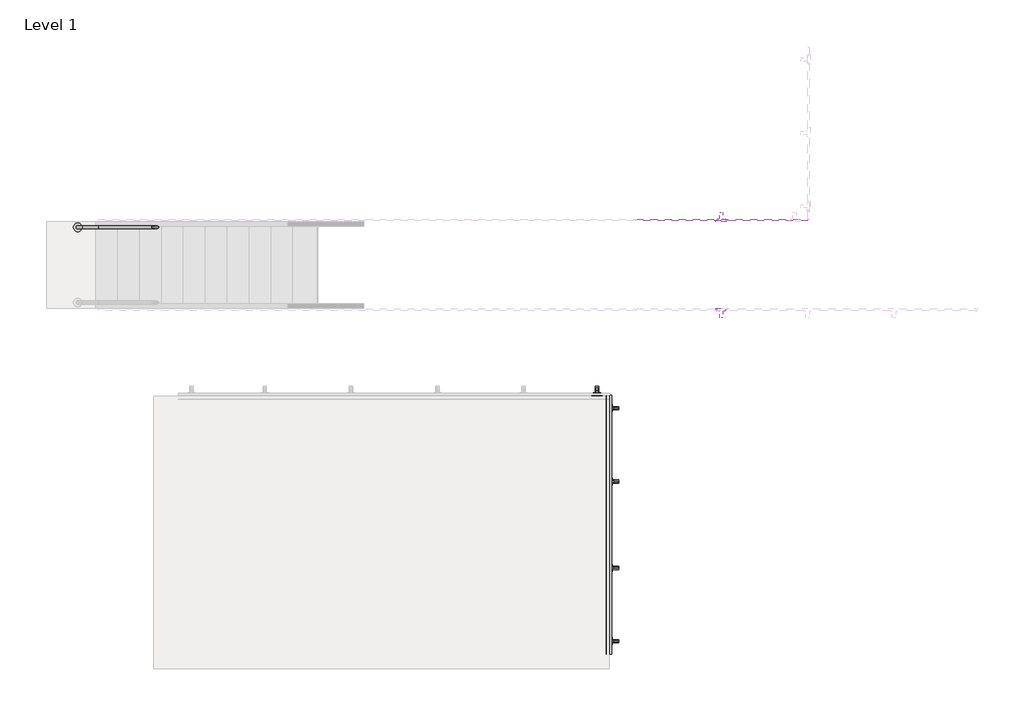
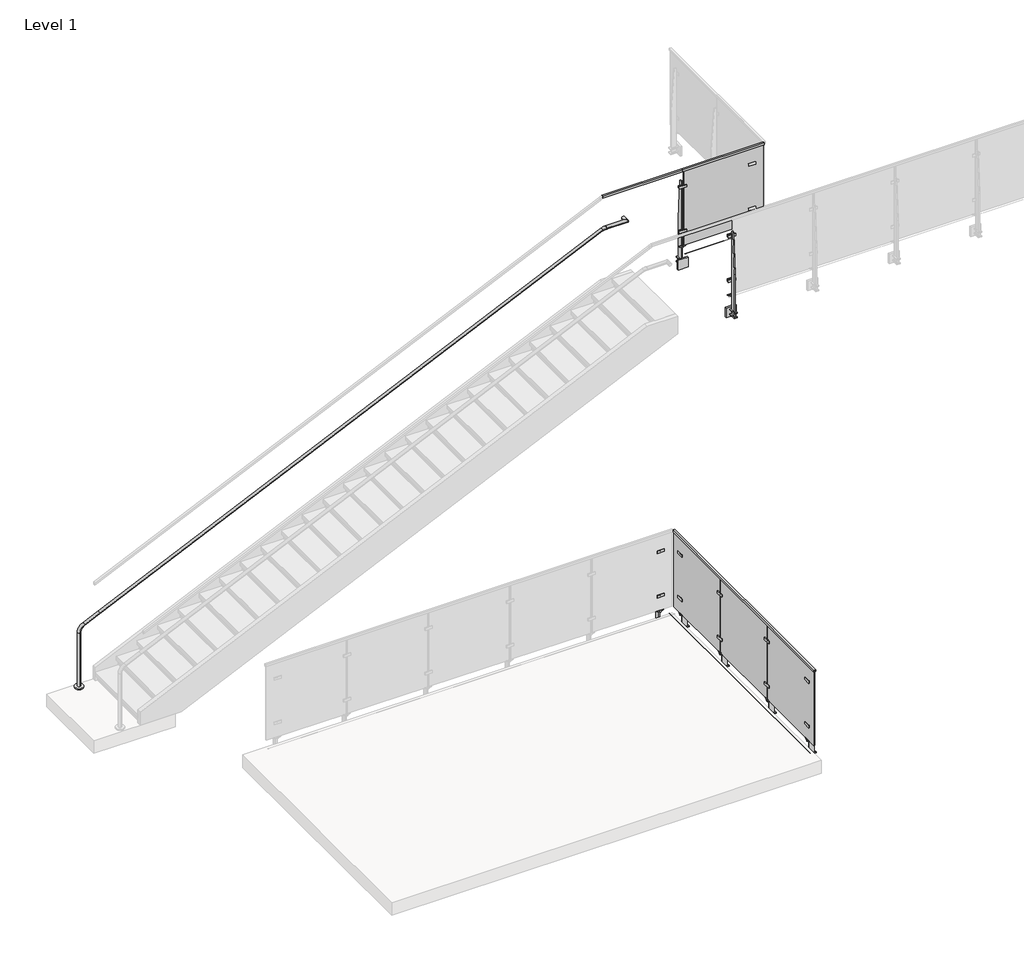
# One storey, part 18 of 37: 6 proxies, 2 railings.
"""IFC4 building model written with IfcOpenShell, lengths in millimetres."""

from ifc_helpers import new_model, si_unit, point, frame, frame_2d, origin, place, context, project, spatial, polyline, circle_curve, ellipse_curve, trimmed, segment, composite_curve, outline, extrude, faceted_brep, transform, mapped, element, save
from ifc_brep_helpers import plane_surface, cylinder_surface, revolved_surface, advanced_brep
from components import baluster_end_post_viva_solo_top_mount_260e03f1, baluster_end_post_viva_solo_top_mount_5a94812b, baluster_end_post_viva_solo_top_mount_2ca36c6b

model = new_model("IFC4")

# Units and contexts
model_context = context("Model", 3, world=origin())
ifc_project = project(units=[si_unit("LENGTHUNIT", "METRE", prefix="MILLI")], contexts=[model_context])

# Site, building, storey
site = spatial("IfcSite", under=ifc_project)
building = spatial("IfcBuilding", under=site)
storey = spatial("IfcBuildingStorey", under=building, Name="Level 1", Elevation=0.0)

# Proxies
placement = place(None, origin())
baluster_end_post_viva_solo_top_mount_shape = baluster_end_post_viva_solo_top_mount_260e03f1(model_context)
element("IfcBuildingElementProxy", 1, Name="Baluster-End-Post-VIVA-SOLO-Top Mount : ANCHORED TO CONCRETE_FASCIA B1 MOUNT FOLD_STRAIGHT", ObjectType="Baluster-End-Post-VIVA-SOLO-Top Mount : ANCHORED TO CONCRETE_FASCIA B1 MOUNT FOLD_STRAIGHT", at=placement, inside=storey, context=model_context, shape_type="MappedRepresentation", body=[
    mapped(baluster_end_post_viva_solo_top_mount_shape, transform((-7749.8616451, 21733.5939615, -0.508), x_axis=(-1.0, 0.0, 0.0), y_axis=(0.0, -1.0, 0.0), z_axis=(0.0, 0.0, 1.0))),
])
element("IfcBuildingElementProxy", 2, Name="Baluster-End-Post-VIVA-SOLO-Top Mount : ANCHORED TO CONCRETE_FASCIA B1 MOUNT FOLD_STRAIGHT", ObjectType="Baluster-End-Post-VIVA-SOLO-Top Mount : ANCHORED TO CONCRETE_FASCIA B1 MOUNT FOLD_STRAIGHT", at=placement, inside=storey, context=model_context, shape_type="MappedRepresentation", body=[
    mapped(baluster_end_post_viva_solo_top_mount_shape, transform((-7795.6451451, 18731.3774615, -0.508), x_axis=(0.0, 1.0, 0.0), y_axis=(-1.0, 0.0, 0.0), z_axis=(0.0, 0.0, 1.0))),
])
baluster_end_post_viva_solo_top_mount_2_shape = baluster_end_post_viva_solo_top_mount_5a94812b(model_context)
element("IfcBuildingElementProxy", 3, Name="Baluster-End-Post-VIVA-SOLO-Top Mount : ANCHORED TO CONCRETE_FASCIA B1 MOUNT FOLD_STRAIGHT", ObjectType="Baluster-End-Post-VIVA-SOLO-Top Mount : ANCHORED TO CONCRETE_FASCIA B1 MOUNT FOLD_STRAIGHT", at=placement, inside=storey, context=model_context, shape_type="MappedRepresentation", body=[
    mapped(baluster_end_post_viva_solo_top_mount_2_shape, transform((-7795.6451451, 21779.3774615, -0.508), x_axis=(0.0, 1.0, 0.0), y_axis=(-1.0, 0.0, 0.0), z_axis=(0.0, 0.0, 1.0))),
])
baluster_end_post_viva_solo_top_mount_3_shape = baluster_end_post_viva_solo_top_mount_2ca36c6b(model_context)
element("IfcBuildingElementProxy", 4, Name="Baluster-End-Post-VIVA-SOLO-Top Mount : ANCHORED TO CONCRETE_FASCIA B1 MOUNT FOLD_STRAIGHT", ObjectType="Baluster-End-Post-VIVA-SOLO-Top Mount : ANCHORED TO CONCRETE_FASCIA B1 MOUNT FOLD_STRAIGHT", at=placement, inside=storey, context=model_context, shape_type="MappedRepresentation", body=[
    mapped(baluster_end_post_viva_solo_top_mount_3_shape, transform((-6439.864819, 22841.5801942, 3047.492), x_axis=(1.0, 0.0, 0.0), y_axis=(0.0, 1.0, 0.0), z_axis=(0.0, 0.0, 1.0))),
])
element("IfcBuildingElementProxy", 5, Name="Baluster-End-Post-VIVA-SOLO-Top Mount : ANCHORED TO CONCRETE_FASCIA B1 MOUNT FOLD_STRAIGHT", ObjectType="Baluster-End-Post-VIVA-SOLO-Top Mount : ANCHORED TO CONCRETE_FASCIA B1 MOUNT FOLD_STRAIGHT", at=placement, inside=storey, context=model_context, shape_type="MappedRepresentation", body=[
    mapped(baluster_end_post_viva_solo_top_mount_3_shape, transform((-6439.864819, 23785.0994132, 3047.492), x_axis=(-1.0, 0.0, 0.0), y_axis=(0.0, -1.0, 0.0), z_axis=(0.0, 0.0, 1.0))),
])
element("IfcBuildingElementProxy", 6, Name="Metal-VIVA-Circular-1 1/2\"-Fascia_Left", ObjectType="Metal-VIVA-Circular-1 1/2\"-Fascia_Left", at=placement, inside=storey, context=model_context, shape_type="SolidModel", body=[
    advanced_brep(
    [(-7445.0811907, 23737.1841942, 3761.5343758), (-7445.0811907, 23775.2841942, 3761.5343758), (-7172.0311907, 23737.1841942, 3761.5343758), (-7210.1311907, 23775.2841942, 3761.5343758), (-7172.0311907, 23819.7341942, 3761.5343758), (-7210.1311907, 23819.7341942, 3761.5343758)],
    [
        (0, 1, circle_curve(frame((-7445.0811907, 23756.2341942, 3761.5343758), z_axis=(-1.0, 0.0, 0.0), x_axis=(0.0, 1.0, 0.0)), 19.05)),
        (1, 0, circle_curve(frame((-7445.0811907, 23756.2341942, 3761.5343758), z_axis=(-1.0, 0.0, 0.0), x_axis=(0.0, 1.0, 0.0)), 19.05)),
        (0, 2),
        (2, 3, ellipse_curve(frame((-7191.0811907, 23756.2341942, 3761.5343758), z_axis=(-0.7071067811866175, -0.7071067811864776, 0.0), x_axis=(-0.7071067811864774, 0.7071067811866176, 0.0)), 26.9407684, 19.05)),
        (3, 1),
        (3, 2, ellipse_curve(frame((-7191.0811907, 23756.2341942, 3761.5343758), z_axis=(-0.7071067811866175, -0.7071067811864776, 0.0), x_axis=(-0.7071067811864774, 0.7071067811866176, 0.0)), 26.9407684, 19.05)),
        (4, 5, circle_curve(frame((-7191.0811907, 23819.7341942, 3761.5343758), z_axis=(0.0, 1.0, 0.0), x_axis=(-1.0, 0.0, 0.0)), 19.05)),
        (5, 4, circle_curve(frame((-7191.0811907, 23819.7341942, 3761.5343758), z_axis=(0.0, 1.0, 0.0), x_axis=(-1.0, 0.0, 0.0)), 19.05)),
        (2, 4),
        (5, 3),
    ],
    [
        plane_surface(frame((-7445.0811907, 23756.2341942, 3761.5343758), z_axis=(-1.0, 0.0, 0.0), x_axis=(0.0, 0.0, 1.0))),
        cylinder_surface(frame((-7445.0811907, 23756.2341942, 3761.5343758), z_axis=(-1.0, 0.0, 0.0), x_axis=(0.0, 1.0, 0.0)), 19.05),
        plane_surface(frame((-7191.0811907, 23819.7341942, 3761.5343758), z_axis=(0.0, 1.0, 0.0), x_axis=(0.0, 0.0, 1.0))),
        cylinder_surface(frame((-7191.0811907, 23756.2341942, 3761.5343758), z_axis=(0.0, -1.0, 0.0), x_axis=(-1.0, 0.0, 0.0)), 19.05),
    ],
    [
        (0, [[1, 2]]),
        (1, [[-1, 3, 4, 5]]),
        (1, [[-2, -5, 6, -3]]),
        (2, [[7, 8]]),
        (3, [[-4, 9, -8, 10]]),
        (3, [[-6, -10, -7, -9]]),
    ],
),
    extrude(outline(composite_curve([segment(trimmed(circle_curve(frame_2d((-14014.9960127, 23756.2341942)), 50.8), [point((-14014.9960127, 23807.0341942))], [point((-14014.9960127, 23705.4341942))], False, "CARTESIAN"), True, "CONTINUOUS"), segment(trimmed(circle_curve(frame_2d((-14014.9960127, 23756.2341942)), 50.8), [point((-14014.9960127, 23705.4341942))], [point((-14014.9960127, 23807.0341942))], False, "CARTESIAN"), True, "CONTINUOUS")], self_intersect=False)), frame((0.0, 0.0, -1.27), z_axis=(0.0, 0.0, 1.0), x_axis=(1.0, 0.0, 0.0)), (0.0, 0.0, 1.0), 19.05),
    advanced_brep(
    [(-14014.9960127, 23737.1841942, 17.78), (-14014.9960127, 23775.2841942, 17.78), (-14014.9960127, 23737.1841942, 721.3199396), (-14014.9960127, 23775.2841942, 721.3199396), (-13955.4515938, 23775.2841942, 813.8071717), (-13955.4515938, 23737.1841942, 813.8071717), (-13768.3505912, 23737.1841942, 898.8853085), (-13768.3505912, 23775.2841942, 898.8853085), (-7492.9486795, 23737.1841942, 3752.4216078), (-7492.9486795, 23775.2841942, 3752.4216078), (-7450.8930984, 23775.2841942, 3761.5343758), (-7450.8930984, 23737.1841942, 3761.5343758), (-7445.0811907, 23737.1841942, 3761.5343758), (-7445.0811907, 23775.2841942, 3761.5343758)],
    [
        (0, 1, circle_curve(frame((-14014.9960127, 23756.2341942, 17.78), z_axis=(0.0, 0.0, -1.0), x_axis=(0.0, 1.0, 0.0)), 19.05)),
        (1, 0, circle_curve(frame((-14014.9960127, 23756.2341942, 17.78), z_axis=(0.0, 0.0, -1.0), x_axis=(0.0, 1.0, 0.0)), 19.05)),
        (0, 2),
        (2, 3, circle_curve(frame((-14014.9960127, 23756.2341942, 721.3199396), z_axis=(0.0, 0.0, -1.0), x_axis=(0.0, 1.0, 0.0)), 19.05)),
        (3, 1),
        (3, 2, circle_curve(frame((-14014.9960127, 23756.2341942, 721.3199396), z_axis=(0.0, 0.0, -1.0), x_axis=(0.0, 1.0, 0.0)), 19.05)),
        (4, 3, circle_curve(frame((-13913.3960127, 23775.2841942, 721.3199396), z_axis=(0.0, -1.0, 0.0), x_axis=(-1.0, 0.0, 0.0)), 101.6)),
        (2, 5, circle_curve(frame((-13913.3960127, 23737.1841942, 721.3199396), z_axis=(0.0, 1.0, 0.0), x_axis=(-1.0, 0.0, 0.0)), 101.6)),
        (5, 4, circle_curve(frame((-13955.4515938, 23756.2341942, 813.8071717), z_axis=(-0.910307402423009, 0.0, -0.41393288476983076), x_axis=(0.0, 1.0, 0.0)), 19.05)),
        (4, 5, circle_curve(frame((-13955.4515938, 23756.2341942, 813.8071717), z_axis=(-0.9103074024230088, 0.0, -0.41393288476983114), x_axis=(0.0, 1.0, 0.0)), 19.05)),
        (5, 6),
        (6, 7, circle_curve(frame((-13768.3505912, 23756.2341942, 898.8853085), z_axis=(-0.9103074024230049, 0.0, -0.4139328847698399), x_axis=(0.0, 1.0, 0.0)), 19.05)),
        (7, 4),
        (7, 6, circle_curve(frame((-13768.3505912, 23756.2341942, 898.8853085), z_axis=(-0.9103074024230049, 0.0, -0.4139328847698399), x_axis=(0.0, 1.0, 0.0)), 19.05)),
        (6, 8),
        (8, 9, circle_curve(frame((-7492.9486795, 23756.2341942, 3752.4216078), z_axis=(-0.9103074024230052, 0.0, -0.4139328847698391), x_axis=(0.0, 1.0, 0.0)), 19.05)),
        (9, 7),
        (9, 8, circle_curve(frame((-7492.9486795, 23756.2341942, 3752.4216078), z_axis=(-0.9103074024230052, 0.0, -0.4139328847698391), x_axis=(0.0, 1.0, 0.0)), 19.05)),
        (10, 9, circle_curve(frame((-7450.8930984, 23775.2841942, 3659.9343758), z_axis=(0.0, -1.0, 0.0), x_axis=(-0.4139328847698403, 0.0, 0.9103074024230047)), 101.6)),
        (8, 11, circle_curve(frame((-7450.8930984, 23737.1841942, 3659.9343758), z_axis=(0.0, 1.0, 0.0), x_axis=(-0.4139328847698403, 0.0, 0.9103074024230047)), 101.6)),
        (11, 10, circle_curve(frame((-7450.8930984, 23756.2341942, 3761.5343758), z_axis=(-1.0, 0.0, 0.0), x_axis=(0.0, 1.0, 0.0)), 19.05)),
        (10, 11, circle_curve(frame((-7450.8930984, 23756.2341942, 3761.5343758), z_axis=(-1.0, 0.0, 0.0), x_axis=(0.0, 1.0, 0.0)), 19.05)),
        (12, 13, circle_curve(frame((-7445.0811907, 23756.2341942, 3761.5343758), z_axis=(1.0, 0.0, 0.0), x_axis=(0.0, 1.0, 0.0)), 19.05)),
        (13, 12, circle_curve(frame((-7445.0811907, 23756.2341942, 3761.5343758), z_axis=(1.0, 0.0, 0.0), x_axis=(0.0, 1.0, 0.0)), 19.05)),
        (11, 12),
        (13, 10),
    ],
    [
        plane_surface(frame((-14034.0460127, 23718.1341942, 17.78), z_axis=(0.0, 0.0, -1.0), x_axis=(1.0, 0.0, 0.0))),
        cylinder_surface(frame((-14014.9960127, 23756.2341942, 17.78), z_axis=(0.0, 0.0, -1.0), x_axis=(0.0, 1.0, 0.0)), 19.05),
        revolved_surface(trimmed(ellipse_curve(frame((-14014.9960127, 23756.2341942, 721.3199396), z_axis=(0.0, 0.0, -1.0), x_axis=(0.0, 1.0, 0.0)), 19.05, 19.05), [point((-14014.9960127, 23737.1841942, 721.3199396))], [point((-14014.9960127, 23775.2841942, 721.3199396))], True, "CARTESIAN"), (-13913.3960127, 23756.2341942, 721.3199396), (0.0, 1.0, 0.0)),
        revolved_surface(trimmed(ellipse_curve(frame((-14014.9960127, 23756.2341942, 721.3199396), z_axis=(0.0, 0.0, -1.0), x_axis=(0.0, 1.0, 0.0)), 19.05, 19.05), [point((-14014.9960127, 23775.2841942, 721.3199396))], [point((-14014.9960127, 23737.1841942, 721.3199396))], True, "CARTESIAN"), (-13913.3960127, 23756.2341942, 721.3199396), (0.0, 1.0, 0.0)),
        cylinder_surface(frame((-13955.4515938, 23756.2341942, 813.8071717), z_axis=(-0.9103074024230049, 0.0, -0.4139328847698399), x_axis=(0.0, 1.0, 0.0)), 19.05),
        cylinder_surface(frame((-13768.3505912, 23756.2341942, 898.8853085), z_axis=(-0.9103074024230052, 0.0, -0.4139328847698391), x_axis=(0.0, 1.0, 0.0)), 19.05),
        revolved_surface(trimmed(ellipse_curve(frame((-7492.9486795, 23756.2341942, 3752.4216078), z_axis=(-0.9103074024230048, 0.0, -0.41393288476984), x_axis=(0.0, 1.0, 0.0)), 19.05, 19.05), [point((-7492.9486795, 23737.1841942, 3752.4216078))], [point((-7492.9486795, 23775.2841942, 3752.4216078))], True, "CARTESIAN"), (-7450.8930984, 23756.2341942, 3659.9343758), (0.0, 1.0, 0.0)),
        revolved_surface(trimmed(ellipse_curve(frame((-7492.9486795, 23756.2341942, 3752.4216078), z_axis=(-0.9103074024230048, 0.0, -0.41393288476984), x_axis=(0.0, 1.0, 0.0)), 19.05, 19.05), [point((-7492.9486795, 23775.2841942, 3752.4216078))], [point((-7492.9486795, 23737.1841942, 3752.4216078))], True, "CARTESIAN"), (-7450.8930984, 23756.2341942, 3659.9343758), (0.0, 1.0, 0.0)),
        plane_surface(frame((-7445.0811907, 23756.2341942, 3780.5843758), z_axis=(1.0, 0.0, 0.0), x_axis=(0.0, 1.0, 0.0))),
        cylinder_surface(frame((-7450.8930984, 23756.2341942, 3761.5343758), z_axis=(-1.0, 0.0, 0.0), x_axis=(0.0, 1.0, 0.0)), 19.05),
    ],
    [
        (0, [[1, 2]]),
        (1, [[-1, 3, 4, 5]]),
        (1, [[-2, -5, 6, -3]]),
        (2, [[7, -4, 8, 9]]),
        (3, [[-8, -6, -7, 10]]),
        (4, [[-9, 11, 12, 13]]),
        (4, [[-10, -13, 14, -11]]),
        (5, [[-12, 15, 16, 17]]),
        (5, [[-14, -17, 18, -15]]),
        (6, [[19, -16, 20, 21]]),
        (7, [[-20, -18, -19, 22]]),
        (8, [[23, 24]]),
        (9, [[-21, 25, -24, 26]]),
        (9, [[-22, -26, -23, -25]]),
    ],
),
])

# Railings
element("IfcRailing", 7, ObjectType="VIVA-SOLO-Glass-Fascia Mount-Straight-B1", at=placement, inside=storey, context=model_context, shape_type="SweptSolid", body=[
    extrude(outline(composite_curve([segment(trimmed(circle_curve(frame_2d((-0.254, -7795.6451451)), 0.254), [point((-0.254, -7795.8991451))], [point((-0.254, -7795.3911451))], False, "CARTESIAN"), True, "CONTINUOUS"), segment(trimmed(circle_curve(frame_2d((-0.254, -7795.6451451)), 0.254), [point((-0.254, -7795.3911451))], [point((-0.254, -7795.8991451))], False, "CARTESIAN"), True, "CONTINUOUS")], self_intersect=False)), frame((0.0, 18731.3774615, 0.0), z_axis=(0.0, 1.0, 0.0), x_axis=(0.0, 0.0, 1.0)), (0.0, 0.0, 1.0), 3048.0),
    extrude(outline(composite_curve([segment(trimmed(circle_curve(frame_2d((-0.254, -7795.6451451)), 0.254), [point((-0.254, -7795.8991451))], [point((-0.254, -7795.3911451))], False, "CARTESIAN"), True, "CONTINUOUS"), segment(trimmed(circle_curve(frame_2d((-0.254, -7795.6451451)), 0.254), [point((-0.254, -7795.3911451))], [point((-0.254, -7795.8991451))], False, "CARTESIAN"), True, "CONTINUOUS")], self_intersect=False)), frame((0.0, 18731.3774615, 0.0), z_axis=(0.0, 1.0, 0.0), x_axis=(0.0, 0.0, 1.0)), (0.0, 0.0, 1.0), 3048.0),
    extrude(outline(polyline([(1079.5, -7749.9251451), (1054.1, -7749.9251451), (1054.1, -7745.1626451), (1074.7375, -7745.1626451), (1074.7375, -7732.4626451), (1054.1, -7732.4626451), (1054.1, -7727.7001451), (1079.5, -7727.7001451), (1079.5, -7749.9251451)])), frame((0.0, 18731.3774615, 0.0), z_axis=(0.0, 1.0, 0.0), x_axis=(0.0, 0.0, 1.0)), (0.0, 0.0, 1.0), 3048.0),
    extrude(outline(polyline([(-7745.0991451, 19734.2944149), (-7732.3991451, 19734.2944149), (-7732.3991451, 18743.6944149), (-7745.0991451, 18743.6944149), (-7745.0991451, 19734.2944149)])), frame((0.0, 0.0, 76.2), z_axis=(0.0, 0.0, 1.0), x_axis=(1.0, 0.0, 0.0)), (0.0, 0.0, 1.0), 998.474),
    extrude(outline(polyline([(914.4, -7722.8741451), (-184.15, -7722.8741451), (-184.15, -7659.3741451), (381.0, -7659.3741451), (914.4, -7697.4741451), (914.4, -7722.8741451)])), frame((0.0, 19741.0274615, 0.0), z_axis=(0.0, 1.0, 0.0), x_axis=(0.0, 0.0, 1.0)), (0.0, 0.0, 1.0), 12.7),
    extrude(outline(polyline([(-7738.7491451, 19727.5337115), (-7738.7491451, 19767.2212115), (-7645.0866451, 19767.2212115), (-7645.0866451, 19727.5337115), (-7738.7491451, 19727.5337115)])), frame((0.0, 0.0, -128.5875), z_axis=(0.0, 0.0, 1.0), x_axis=(1.0, 0.0, 0.0)), (0.0, 0.0, 1.0), 12.7),
    extrude(outline(polyline([(-7738.7491451, 19727.5337115), (-7738.7491451, 19767.2212115), (-7645.0866451, 19767.2212115), (-7645.0866451, 19727.5337115), (-7738.7491451, 19727.5337115)])), frame((0.0, 0.0, -188.9125), z_axis=(0.0, 0.0, 1.0), x_axis=(1.0, 0.0, 0.0)), (0.0, 0.0, 1.0), 12.7),
    extrude(outline(polyline([(-7732.3991451, 19791.8274615), (-7722.8741451, 19791.8274615), (-7722.8741451, 19702.9274615), (-7732.3991451, 19702.9274615), (-7732.3991451, 19791.8274615)])), frame((0.0, 0.0, 251.9910694), z_axis=(0.0, 0.0, 1.0), x_axis=(1.0, 0.0, 0.0)), (0.0, 0.0, 1.0), 31.75),
    extrude(outline(polyline([(-7732.3991451, 19791.8274615), (-7722.8741451, 19791.8274615), (-7722.8741451, 19702.9274615), (-7732.3991451, 19702.9274615), (-7732.3991451, 19791.8274615)])), frame((0.0, 0.0, 838.2992187), z_axis=(0.0, 0.0, 1.0), x_axis=(1.0, 0.0, 0.0)), (0.0, 0.0, 1.0), 31.75),
    extrude(outline(polyline([(-7754.6241451, 19791.8274615), (-7745.0991451, 19791.8274615), (-7745.0991451, 19702.9274615), (-7754.6241451, 19702.9274615), (-7754.6241451, 19791.8274615)])), frame((0.0, 0.0, 251.9910694), z_axis=(0.0, 0.0, 1.0), x_axis=(1.0, 0.0, 0.0)), (0.0, 0.0, 1.0), 31.75),
    extrude(outline(polyline([(-7754.6241451, 19791.8274615), (-7745.0991451, 19791.8274615), (-7745.0991451, 19702.9274615), (-7754.6241451, 19702.9274615), (-7754.6241451, 19791.8274615)])), frame((0.0, 0.0, 838.2992187), z_axis=(0.0, 0.0, 1.0), x_axis=(1.0, 0.0, 0.0)), (0.0, 0.0, 1.0), 31.75),
    extrude(outline(polyline([(19702.9274615, 76.2), (19791.8274615, 76.2), (19791.8274615, 69.85), (19747.3774615, 47.9353513), (19702.9274615, 69.85), (19702.9274615, 76.2)])), frame((-7745.0991451, 0.0, 0.0), z_axis=(1.0, 0.0, 0.0), x_axis=(0.0, 1.0, 0.0)), (0.0, 0.0, 1.0), 12.7),
    extrude(outline(polyline([(-7759.3866451, 19810.8774615), (-7738.7491451, 19810.8774615), (-7738.7491451, 19683.8774615), (-7759.3866451, 19683.8774615), (-7759.3866451, 19810.8774615)])), frame((0.0, 0.0, -215.9), z_axis=(0.0, 0.0, 1.0), x_axis=(1.0, 0.0, 0.0)), (0.0, 0.0, 1.0), 127.0),
    extrude(outline(composite_curve([segment(trimmed(circle_curve(frame_2d((19747.3774615, 267.8660694)), 6.35), [point((19741.0274615, 267.8660694))], [point((19753.7274615, 267.8660694))], False, "CARTESIAN"), True, "CONTINUOUS"), segment(trimmed(circle_curve(frame_2d((19747.3774615, 267.8660694)), 6.35), [point((19753.7274615, 267.8660694))], [point((19741.0274615, 267.8660694))], False, "CARTESIAN"), True, "CONTINUOUS")], self_intersect=False)), frame((-7745.0991451, 0.0, 0.0), z_axis=(1.0, 0.0, 0.0), x_axis=(0.0, 1.0, 0.0)), (0.0, 0.0, 1.0), 12.7),
    extrude(outline(composite_curve([segment(trimmed(circle_curve(frame_2d((19747.3774615, 854.1742187)), 6.35), [point((19741.0274615, 854.1742187))], [point((19753.7274615, 854.1742187))], False, "CARTESIAN"), True, "CONTINUOUS"), segment(trimmed(circle_curve(frame_2d((19747.3774615, 854.1742187)), 6.35), [point((19753.7274615, 854.1742187))], [point((19741.0274615, 854.1742187))], False, "CARTESIAN"), True, "CONTINUOUS")], self_intersect=False)), frame((-7745.0991451, 0.0, 0.0), z_axis=(1.0, 0.0, 0.0), x_axis=(0.0, 1.0, 0.0)), (0.0, 0.0, 1.0), 12.7),
    extrude(outline(composite_curve([segment(trimmed(circle_curve(frame_2d((19747.3774615, 60.325)), 11.1125), [point((19736.2649615, 60.325))], [point((19758.4899615, 60.325))], False, "CARTESIAN"), True, "CONTINUOUS"), segment(trimmed(circle_curve(frame_2d((19747.3774615, 60.325)), 11.1125), [point((19758.4899615, 60.325))], [point((19736.2649615, 60.325))], False, "CARTESIAN"), True, "CONTINUOUS")], self_intersect=False)), frame((-7748.2741451, 0.0, 0.0), z_axis=(1.0, 0.0, 0.0), x_axis=(0.0, 1.0, 0.0)), (0.0, 0.0, 1.0), 25.4),
    extrude(outline(polyline([(-7745.0991451, 20750.2944149), (-7732.3991451, 20750.2944149), (-7732.3991451, 19759.6944149), (-7745.0991451, 19759.6944149), (-7745.0991451, 20750.2944149)])), frame((0.0, 0.0, 76.2), z_axis=(0.0, 0.0, 1.0), x_axis=(1.0, 0.0, 0.0)), (0.0, 0.0, 1.0), 998.474),
    extrude(outline(polyline([(914.4, -7722.8741451), (-184.15, -7722.8741451), (-184.15, -7659.3741451), (381.0, -7659.3741451), (914.4, -7697.4741451), (914.4, -7722.8741451)])), frame((0.0, 20757.0274615, 0.0), z_axis=(0.0, 1.0, 0.0), x_axis=(0.0, 0.0, 1.0)), (0.0, 0.0, 1.0), 12.7),
    extrude(outline(polyline([(-7738.7491451, 20743.5337115), (-7738.7491451, 20783.2212115), (-7645.0866451, 20783.2212115), (-7645.0866451, 20743.5337115), (-7738.7491451, 20743.5337115)])), frame((0.0, 0.0, -128.5875), z_axis=(0.0, 0.0, 1.0), x_axis=(1.0, 0.0, 0.0)), (0.0, 0.0, 1.0), 12.7),
    extrude(outline(polyline([(-7738.7491451, 20743.5337115), (-7738.7491451, 20783.2212115), (-7645.0866451, 20783.2212115), (-7645.0866451, 20743.5337115), (-7738.7491451, 20743.5337115)])), frame((0.0, 0.0, -188.9125), z_axis=(0.0, 0.0, 1.0), x_axis=(1.0, 0.0, 0.0)), (0.0, 0.0, 1.0), 12.7),
    extrude(outline(polyline([(-7732.3991451, 20807.8274615), (-7722.8741451, 20807.8274615), (-7722.8741451, 20718.9274615), (-7732.3991451, 20718.9274615), (-7732.3991451, 20807.8274615)])), frame((0.0, 0.0, 251.9910694), z_axis=(0.0, 0.0, 1.0), x_axis=(1.0, 0.0, 0.0)), (0.0, 0.0, 1.0), 31.75),
    extrude(outline(polyline([(-7732.3991451, 20807.8274615), (-7722.8741451, 20807.8274615), (-7722.8741451, 20718.9274615), (-7732.3991451, 20718.9274615), (-7732.3991451, 20807.8274615)])), frame((0.0, 0.0, 838.2992187), z_axis=(0.0, 0.0, 1.0), x_axis=(1.0, 0.0, 0.0)), (0.0, 0.0, 1.0), 31.75),
    extrude(outline(polyline([(-7754.6241451, 20807.8274615), (-7745.0991451, 20807.8274615), (-7745.0991451, 20718.9274615), (-7754.6241451, 20718.9274615), (-7754.6241451, 20807.8274615)])), frame((0.0, 0.0, 251.9910694), z_axis=(0.0, 0.0, 1.0), x_axis=(1.0, 0.0, 0.0)), (0.0, 0.0, 1.0), 31.75),
    extrude(outline(polyline([(-7754.6241451, 20807.8274615), (-7745.0991451, 20807.8274615), (-7745.0991451, 20718.9274615), (-7754.6241451, 20718.9274615), (-7754.6241451, 20807.8274615)])), frame((0.0, 0.0, 838.2992187), z_axis=(0.0, 0.0, 1.0), x_axis=(1.0, 0.0, 0.0)), (0.0, 0.0, 1.0), 31.75),
    extrude(outline(polyline([(20718.9274615, 76.2), (20807.8274615, 76.2), (20807.8274615, 69.85), (20763.3774615, 47.9353513), (20718.9274615, 69.85), (20718.9274615, 76.2)])), frame((-7745.0991451, 0.0, 0.0), z_axis=(1.0, 0.0, 0.0), x_axis=(0.0, 1.0, 0.0)), (0.0, 0.0, 1.0), 12.7),
    extrude(outline(polyline([(-7759.3866451, 20826.8774615), (-7738.7491451, 20826.8774615), (-7738.7491451, 20699.8774615), (-7759.3866451, 20699.8774615), (-7759.3866451, 20826.8774615)])), frame((0.0, 0.0, -215.9), z_axis=(0.0, 0.0, 1.0), x_axis=(1.0, 0.0, 0.0)), (0.0, 0.0, 1.0), 127.0),
    extrude(outline(composite_curve([segment(trimmed(circle_curve(frame_2d((20763.3774615, 267.8660694)), 6.35), [point((20757.0274615, 267.8660694))], [point((20769.7274615, 267.8660694))], False, "CARTESIAN"), True, "CONTINUOUS"), segment(trimmed(circle_curve(frame_2d((20763.3774615, 267.8660694)), 6.35), [point((20769.7274615, 267.8660694))], [point((20757.0274615, 267.8660694))], False, "CARTESIAN"), True, "CONTINUOUS")], self_intersect=False)), frame((-7745.0991451, 0.0, 0.0), z_axis=(1.0, 0.0, 0.0), x_axis=(0.0, 1.0, 0.0)), (0.0, 0.0, 1.0), 12.7),
    extrude(outline(composite_curve([segment(trimmed(circle_curve(frame_2d((20763.3774615, 854.1742187)), 6.35), [point((20757.0274615, 854.1742187))], [point((20769.7274615, 854.1742187))], False, "CARTESIAN"), True, "CONTINUOUS"), segment(trimmed(circle_curve(frame_2d((20763.3774615, 854.1742187)), 6.35), [point((20769.7274615, 854.1742187))], [point((20757.0274615, 854.1742187))], False, "CARTESIAN"), True, "CONTINUOUS")], self_intersect=False)), frame((-7745.0991451, 0.0, 0.0), z_axis=(1.0, 0.0, 0.0), x_axis=(0.0, 1.0, 0.0)), (0.0, 0.0, 1.0), 12.7),
    extrude(outline(composite_curve([segment(trimmed(circle_curve(frame_2d((20763.3774615, 60.325)), 11.1125), [point((20752.2649615, 60.325))], [point((20774.4899615, 60.325))], False, "CARTESIAN"), True, "CONTINUOUS"), segment(trimmed(circle_curve(frame_2d((20763.3774615, 60.325)), 11.1125), [point((20774.4899615, 60.325))], [point((20752.2649615, 60.325))], False, "CARTESIAN"), True, "CONTINUOUS")], self_intersect=False)), frame((-7748.2741451, 0.0, 0.0), z_axis=(1.0, 0.0, 0.0), x_axis=(0.0, 1.0, 0.0)), (0.0, 0.0, 1.0), 25.4),
    extrude(outline(polyline([(-7745.0991451, 21766.2944149), (-7732.3991451, 21766.2944149), (-7732.3991451, 20775.6944149), (-7745.0991451, 20775.6944149), (-7745.0991451, 21766.2944149)])), frame((0.0, 0.0, 76.2), z_axis=(0.0, 0.0, 1.0), x_axis=(1.0, 0.0, 0.0)), (0.0, 0.0, 1.0), 998.474),
])
element("IfcRailing", 8, ObjectType="VIVA-SOLO-Glass-Fascia Mount-Straight-B1", at=placement, inside=storey, context=model_context, shape_type="SolidModel", body=[
    extrude(outline(composite_curve([segment(trimmed(circle_curve(frame_2d((23785.0994132, 3047.746)), 0.254), [point((23784.8454132, 3047.746))], [point((23785.3534132, 3047.746))], False, "CARTESIAN"), True, "CONTINUOUS"), segment(trimmed(circle_curve(frame_2d((23785.0994132, 3047.746)), 0.254), [point((23785.3534132, 3047.746))], [point((23784.8454132, 3047.746))], False, "CARTESIAN"), True, "CONTINUOUS")], self_intersect=False)), frame((-6439.864819, 0.0, 0.0), z_axis=(1.0, 0.0, 0.0), x_axis=(0.0, 1.0, 0.0)), (0.0, 0.0, 1.0), 1016.0),
    extrude(outline(composite_curve([segment(trimmed(circle_curve(frame_2d((23785.0994132, 3047.746)), 0.254), [point((23784.8454132, 3047.746))], [point((23785.3534132, 3047.746))], False, "CARTESIAN"), True, "CONTINUOUS"), segment(trimmed(circle_curve(frame_2d((23785.0994132, 3047.746)), 0.254), [point((23785.3534132, 3047.746))], [point((23784.8454132, 3047.746))], False, "CARTESIAN"), True, "CONTINUOUS")], self_intersect=False)), frame((-6439.864819, 0.0, 0.0), z_axis=(1.0, 0.0, 0.0), x_axis=(0.0, 1.0, 0.0)), (0.0, 0.0, 1.0), 1016.0),
    faceted_brep([(-5423.864819, 23830.8194132, 4127.5), (-5423.864819, 23830.8194132, 4102.1), (-5423.864819, 23835.5819132, 4102.1), (-5423.864819, 23835.5819132, 4122.7375), (-5423.864819, 23848.2819132, 4122.7375), (-5423.864819, 23848.2819132, 4102.1), (-5423.864819, 23853.0444132, 4102.1), (-5423.864819, 23853.0444132, 4127.5), (-6439.864819, 23853.0444132, 4127.5), (-6439.864819, 23830.8194132, 4127.5), (-6439.864819, 23853.0444132, 4102.1), (-6439.864819, 23848.2819132, 4102.1), (-6439.864819, 23848.2819132, 4122.7375), (-6439.864819, 23835.5819132, 4122.7375), (-6439.864819, 23835.5819132, 4102.1), (-6439.864819, 23830.8194132, 4102.1), (-7440.275569, 23830.8194132, 4127.5), (-7440.275569, 23853.0444132, 4127.5), (-7440.275569, 23853.0444132, 4102.1), (-7440.275569, 23848.2819132, 4102.1), (-7440.275569, 23848.2819132, 4122.7375), (-7440.275569, 23835.5819132, 4122.7375), (-7440.275569, 23835.5819132, 4102.1), (-7440.275569, 23830.8194132, 4102.1)], [[[0, 1, 2, 3, 4, 5, 6, 7]], [[8, 9, 0, 7]], [[10, 8, 7, 6]], [[11, 10, 6, 5]], [[12, 11, 5, 4]], [[13, 12, 4, 3]], [[14, 13, 3, 2]], [[15, 14, 2, 1]], [[9, 15, 1, 0]], [[16, 17, 18, 19, 20, 21, 22, 23]], [[17, 16, 9, 8]], [[18, 17, 8, 10]], [[19, 18, 10, 11]], [[20, 19, 11, 12]], [[21, 20, 12, 13]], [[22, 21, 13, 14]], [[23, 22, 14, 15]], [[16, 23, 15, 9]]]),
    extrude(outline(polyline([(-6426.7817724, 23835.6454132), (-6426.7817724, 23848.3454132), (-5436.1817724, 23848.3454132), (-5436.1817724, 23835.6454132), (-6426.7817724, 23835.6454132)])), frame((0.0, 0.0, 3124.2), z_axis=(0.0, 0.0, 1.0), x_axis=(1.0, 0.0, 0.0)), (0.0, 0.0, 1.0), 998.474),
])

save(model, "model.ifc")
